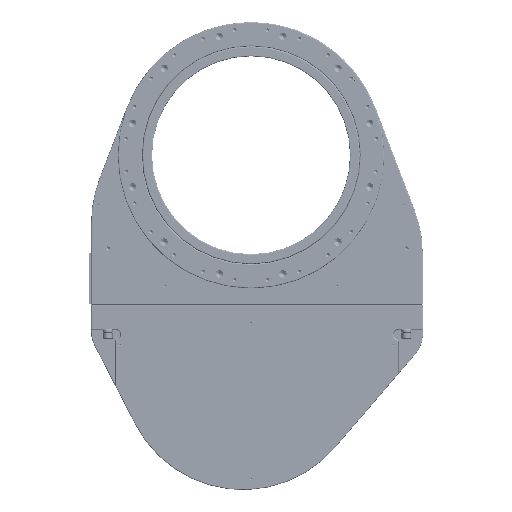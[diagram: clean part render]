
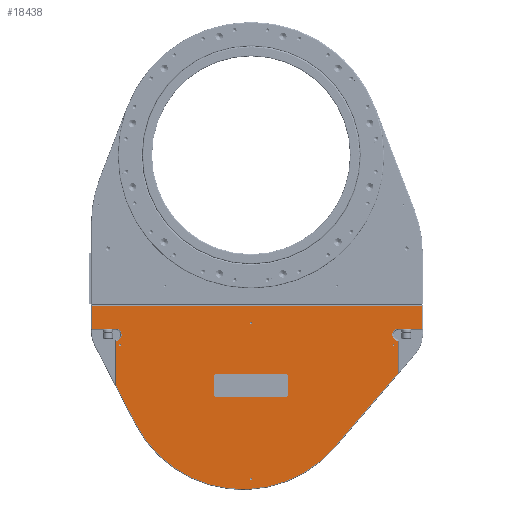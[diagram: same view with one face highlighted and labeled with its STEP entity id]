
A CAD part, top view. The second image highlights one B-rep face of the part: STEP entity #18438.
In plain terms, the highlighted planar face has unit normal (0, 0, 1) as drawn and (0, 0, -1) by its records, which use the part's own axes.
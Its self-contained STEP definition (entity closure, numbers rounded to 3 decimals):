
#8473=LINE('',#68176,#11201);
#8474=LINE('',#68179,#11202);
#8475=LINE('',#68181,#11203);
#8476=LINE('',#68185,#11204);
#8477=LINE('',#68187,#11205);
#8478=LINE('',#68191,#11206);
#8479=LINE('',#68193,#11207);
#8480=LINE('',#68197,#11208);
#8481=LINE('',#68199,#11209);
#11201=VECTOR('',#56380,1.);
#11202=VECTOR('',#56381,1.);
#11203=VECTOR('',#56382,1.);
#11204=VECTOR('',#56385,1.);
#11205=VECTOR('',#56386,1.);
#11206=VECTOR('',#56389,1.);
#11207=VECTOR('',#56390,1.);
#11208=VECTOR('',#56393,1.);
#11209=VECTOR('',#56394,1.);
#16123=FACE_BOUND('',#23948,.T.);
#16124=FACE_BOUND('',#23949,.T.);
#16125=FACE_BOUND('',#23950,.T.);
#16126=FACE_BOUND('',#23951,.T.);
#16127=FACE_BOUND('',#23952,.T.);
#18438=ADVANCED_FACE('',(#16123,#16124,#16125,#16126,#16127),#20703,.T.);
#20703=PLANE('',#50958);
#23948=EDGE_LOOP('',(#28625,#28626,#28627,#28628,#28629,#28630,#28631,#28632,
#28633,#28634,#28635,#28636));
#23949=EDGE_LOOP('',(#28637));
#23950=EDGE_LOOP('',(#28638));
#23951=EDGE_LOOP('',(#28639));
#23952=EDGE_LOOP('',(#28640));
#28625=ORIENTED_EDGE('',*,*,#43436,.T.);
#28626=ORIENTED_EDGE('',*,*,#43437,.T.);
#28627=ORIENTED_EDGE('',*,*,#43438,.T.);
#28628=ORIENTED_EDGE('',*,*,#43439,.T.);
#28629=ORIENTED_EDGE('',*,*,#43440,.T.);
#28630=ORIENTED_EDGE('',*,*,#43441,.T.);
#28631=ORIENTED_EDGE('',*,*,#43442,.T.);
#28632=ORIENTED_EDGE('',*,*,#43443,.T.);
#28633=ORIENTED_EDGE('',*,*,#43444,.T.);
#28634=ORIENTED_EDGE('',*,*,#43445,.T.);
#28635=ORIENTED_EDGE('',*,*,#43446,.T.);
#28636=ORIENTED_EDGE('',*,*,#43447,.T.);
#28637=ORIENTED_EDGE('',*,*,#43448,.T.);
#28638=ORIENTED_EDGE('',*,*,#43449,.T.);
#28639=ORIENTED_EDGE('',*,*,#43450,.T.);
#28640=ORIENTED_EDGE('',*,*,#43451,.T.);
#38973=VERTEX_POINT('',#68177);
#38974=VERTEX_POINT('',#68178);
#38975=VERTEX_POINT('',#68180);
#38976=VERTEX_POINT('',#68182);
#38977=VERTEX_POINT('',#68184);
#38978=VERTEX_POINT('',#68186);
#38979=VERTEX_POINT('',#68188);
#38980=VERTEX_POINT('',#68190);
#38981=VERTEX_POINT('',#68192);
#38982=VERTEX_POINT('',#68194);
#38983=VERTEX_POINT('',#68196);
#38984=VERTEX_POINT('',#68198);
#38985=VERTEX_POINT('',#68201);
#38986=VERTEX_POINT('',#68203);
#38987=VERTEX_POINT('',#68205);
#38988=VERTEX_POINT('',#68207);
#43436=EDGE_CURVE('',#38973,#38974,#8473,.T.);
#43437=EDGE_CURVE('',#38974,#38975,#8474,.T.);
#43438=EDGE_CURVE('',#38975,#38976,#8475,.T.);
#43439=EDGE_CURVE('',#38976,#38977,#48708,.T.);
#43440=EDGE_CURVE('',#38977,#38978,#8476,.T.);
#43441=EDGE_CURVE('',#38978,#38979,#8477,.T.);
#43442=EDGE_CURVE('',#38979,#38980,#48709,.T.);
#43443=EDGE_CURVE('',#38980,#38981,#8478,.T.);
#43444=EDGE_CURVE('',#38981,#38982,#8479,.T.);
#43445=EDGE_CURVE('',#38982,#38983,#48710,.T.);
#43446=EDGE_CURVE('',#38983,#38984,#8480,.T.);
#43447=EDGE_CURVE('',#38984,#38973,#8481,.T.);
#43448=EDGE_CURVE('',#38985,#38985,#48711,.T.);
#43449=EDGE_CURVE('',#38986,#38986,#48712,.T.);
#43450=EDGE_CURVE('',#38987,#38987,#48713,.T.);
#43451=EDGE_CURVE('',#38988,#38988,#48714,.T.);
#48708=CIRCLE('',#50951,10.);
#48709=CIRCLE('',#50952,193.5);
#48710=CIRCLE('',#50953,10.);
#48711=CIRCLE('',#50954,1.65);
#48712=CIRCLE('',#50955,1.65);
#48713=CIRCLE('',#50956,1.65);
#48714=CIRCLE('',#50957,1.65);
#50951=AXIS2_PLACEMENT_3D('',#68183,#56383,#56384);
#50952=AXIS2_PLACEMENT_3D('',#68189,#56387,#56388);
#50953=AXIS2_PLACEMENT_3D('',#68195,#56391,#56392);
#50954=AXIS2_PLACEMENT_3D('',#68200,#56395,#56396);
#50955=AXIS2_PLACEMENT_3D('',#68202,#56397,#56398);
#50956=AXIS2_PLACEMENT_3D('',#68204,#56399,#56400);
#50957=AXIS2_PLACEMENT_3D('',#68206,#56401,#56402);
#50958=AXIS2_PLACEMENT_3D('',#68208,#56403,#56404);
#56380=DIRECTION('',(1.,0.,0.));
#56381=DIRECTION('',(0.,-1.,0.));
#56382=DIRECTION('',(-1.,0.,0.));
#56383=DIRECTION('',(0.,0.,1.));
#56384=DIRECTION('',(-1.,0.,0.));
#56385=DIRECTION('',(0.,-1.,0.));
#56386=DIRECTION('',(-0.458,-0.889,0.));
#56387=DIRECTION('',(0.,0.,-1.));
#56388=DIRECTION('',(-1.,0.,0.));
#56389=DIRECTION('',(-0.652,0.758,0.));
#56390=DIRECTION('',(0.,1.,0.));
#56391=DIRECTION('',(0.,0.,1.));
#56392=DIRECTION('',(-1.,0.,0.));
#56393=DIRECTION('',(-1.,0.,0.));
#56394=DIRECTION('',(0.,1.,0.));
#56395=DIRECTION('',(0.,0.,1.));
#56396=DIRECTION('',(1.,0.,0.));
#56397=DIRECTION('',(0.,0.,1.));
#56398=DIRECTION('',(1.,0.,0.));
#56399=DIRECTION('',(0.,0.,1.));
#56400=DIRECTION('',(1.,0.,0.));
#56401=DIRECTION('',(0.,0.,1.));
#56402=DIRECTION('',(1.,0.,0.));
#56403=DIRECTION('',(0.,0.,-1.));
#56404=DIRECTION('',(-1.,0.,0.));
#68176=CARTESIAN_POINT('',(193.,-1.5,-48.));
#68177=CARTESIAN_POINT('',(-287.5,-1.5,-48.));
#68178=CARTESIAN_POINT('',(242.5,-1.5,-48.));
#68179=CARTESIAN_POINT('',(242.5,-43.,-48.));
#68180=CARTESIAN_POINT('',(242.5,-38.5,-48.));
#68181=CARTESIAN_POINT('',(193.,-38.5,-48.));
#68182=CARTESIAN_POINT('',(205.,-38.5,-48.));
#68183=CARTESIAN_POINT('',(205.,-48.5,-48.));
#68184=CARTESIAN_POINT('',(203.5,-58.387,-48.));
#68185=CARTESIAN_POINT('',(203.5,-43.,-48.));
#68186=CARTESIAN_POINT('',(203.5,-130.61,-48.));
#68187=CARTESIAN_POINT('',(236.991,-65.695,-48.));
#68188=CARTESIAN_POINT('',(171.973,-191.719,-48.));
#68189=CARTESIAN_POINT('',(0.01,-103.,-48.));
#68190=CARTESIAN_POINT('',(-146.736,-229.126,-48.));
#68191=CARTESIAN_POINT('',(-94.401,-290.017,-48.));
#68192=CARTESIAN_POINT('',(-248.5,-110.725,-48.));
#68193=CARTESIAN_POINT('',(-248.5,-43.,-48.));
#68194=CARTESIAN_POINT('',(-248.5,-58.387,-48.));
#68195=CARTESIAN_POINT('',(-250.,-48.5,-48.));
#68196=CARTESIAN_POINT('',(-250.,-38.5,-48.));
#68197=CARTESIAN_POINT('',(193.,-38.5,-48.));
#68198=CARTESIAN_POINT('',(-287.5,-38.5,-48.));
#68199=CARTESIAN_POINT('',(-287.5,-43.,-48.));
#68200=CARTESIAN_POINT('',(197.,-65.,-48.));
#68201=CARTESIAN_POINT('',(198.65,-65.,-48.));
#68202=CARTESIAN_POINT('',(-13.,-30.,-48.));
#68203=CARTESIAN_POINT('',(-11.35,-30.,-48.));
#68204=CARTESIAN_POINT('',(-13.,-280.,-48.));
#68205=CARTESIAN_POINT('',(-11.35,-280.,-48.));
#68206=CARTESIAN_POINT('',(-242.,-65.,-48.));
#68207=CARTESIAN_POINT('',(-240.35,-65.,-48.));
#68208=CARTESIAN_POINT('',(193.,-43.,-48.));
